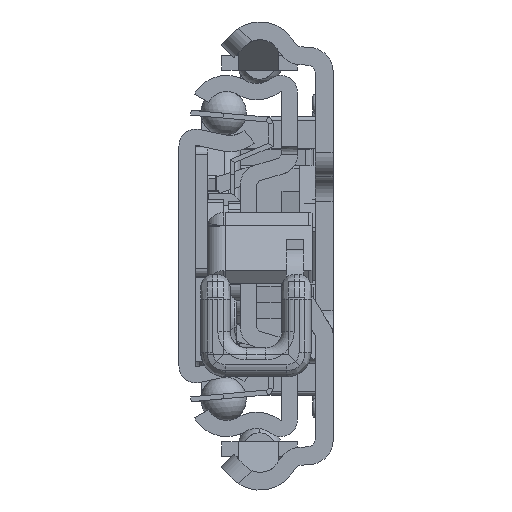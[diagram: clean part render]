
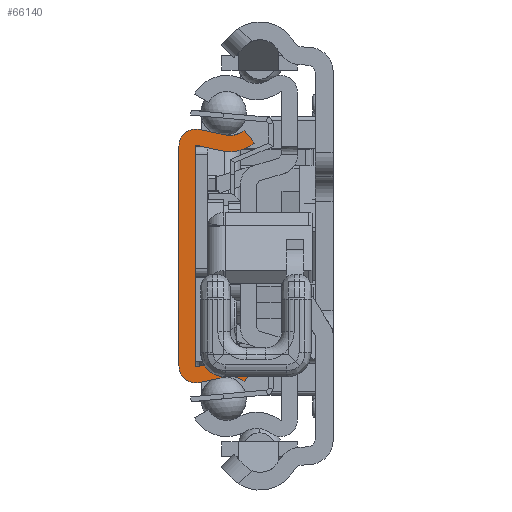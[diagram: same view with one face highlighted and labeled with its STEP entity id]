
A CAD part, left-side view. The second image highlights one B-rep face of the part: STEP entity #66140.
In plain terms, the highlighted planar face has unit normal (-1, 0, 0).
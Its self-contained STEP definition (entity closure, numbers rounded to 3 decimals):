
#60700=CARTESIAN_POINT('',(0.,-6.29,-17.65));
#60701=DIRECTION('',(-1.,0.,0.));
#60702=DIRECTION('',(0.,-0.629,0.778));
#60703=AXIS2_PLACEMENT_3D('',#60700,#60701,#60702);
#60705=DIRECTION('',(0.,0.977,-0.213));
#60706=VECTOR('',#60705,3.218);
#60707=CARTESIAN_POINT('',(0.,-5.692,-14.915));
#60708=LINE('',#60707,#60706);
#60709=CARTESIAN_POINT('',(0.,-2.1,-13.55));
#60710=DIRECTION('',(1.,0.,0.));
#60711=DIRECTION('',(0.,-0.213,-0.977));
#60712=AXIS2_PLACEMENT_3D('',#60709,#60710,#60711);
#60714=DIRECTION('',(0.,0.,1.));
#60715=VECTOR('',#60714,27.1);
#60716=CARTESIAN_POINT('',(0.,0.,-13.55));
#60717=LINE('',#60716,#60715);
#60718=CARTESIAN_POINT('',(0.,-2.1,13.55));
#60719=DIRECTION('',(1.,0.,0.));
#60720=DIRECTION('',(0.,1.,0.));
#60721=AXIS2_PLACEMENT_3D('',#60718,#60719,#60720);
#60723=DIRECTION('',(0.,-0.977,-0.213));
#60724=VECTOR('',#60723,3.218);
#60725=CARTESIAN_POINT('',(0.,-2.548,15.602));
#60726=LINE('',#60725,#60724);
#60727=CARTESIAN_POINT('',(0.,-6.29,17.65));
#60728=DIRECTION('',(-1.,0.,0.));
#60729=DIRECTION('',(0.,0.213,-0.977));
#60730=AXIS2_PLACEMENT_3D('',#60727,#60728,#60729);
#60732=DIRECTION('',(0.,-0.629,-0.778));
#60733=VECTOR('',#60732,2.);
#60734=CARTESIAN_POINT('',(0.,-8.05,15.472));
#60735=LINE('',#60734,#60733);
#60736=CARTESIAN_POINT('',(0.,-6.29,17.65));
#60737=DIRECTION('',(1.,0.,0.));
#60738=DIRECTION('',(0.,-0.629,-0.778));
#60739=AXIS2_PLACEMENT_3D('',#60736,#60737,#60738);
#60741=DIRECTION('',(0.,0.977,0.213));
#60742=VECTOR('',#60741,3.218);
#60743=CARTESIAN_POINT('',(0.,-5.265,12.961));
#60744=LINE('',#60743,#60742);
#60745=CARTESIAN_POINT('',(0.,-2.1,13.55));
#60746=DIRECTION('',(-1.,0.,0.));
#60747=DIRECTION('',(0.,-0.213,0.977));
#60748=AXIS2_PLACEMENT_3D('',#60745,#60746,#60747);
#60750=DIRECTION('',(0.,0.,-1.));
#60751=VECTOR('',#60750,27.1);
#60752=CARTESIAN_POINT('',(0.,-2.,13.55));
#60753=LINE('',#60752,#60751);
#60754=CARTESIAN_POINT('',(0.,-2.1,-13.55));
#60755=DIRECTION('',(-1.,0.,0.));
#60756=DIRECTION('',(0.,1.,0.));
#60757=AXIS2_PLACEMENT_3D('',#60754,#60755,#60756);
#60759=DIRECTION('',(0.,-0.977,0.213));
#60760=VECTOR('',#60759,3.218);
#60761=CARTESIAN_POINT('',(0.,-2.121,-13.648));
#60762=LINE('',#60761,#60760);
#60763=CARTESIAN_POINT('',(0.,-6.29,-17.65));
#60764=DIRECTION('',(1.,0.,0.));
#60765=DIRECTION('',(0.,0.213,0.977));
#60766=AXIS2_PLACEMENT_3D('',#60763,#60764,#60765);
#60768=DIRECTION('',(0.,0.629,-0.778));
#60769=VECTOR('',#60768,2.);
#60770=CARTESIAN_POINT('',(0.,-9.307,-13.917));
#60771=LINE('',#60770,#60769);
#64809=CARTESIAN_POINT('',(0.,-8.05,-15.472));
#64810=CARTESIAN_POINT('',(0.,-5.692,-14.915));
#64811=VERTEX_POINT('',#64809);
#64812=VERTEX_POINT('',#64810);
#64813=CARTESIAN_POINT('',(0.,-2.548,-15.602));
#64814=VERTEX_POINT('',#64813);
#64815=CARTESIAN_POINT('',(0.,0.,-13.55));
#64816=VERTEX_POINT('',#64815);
#64817=CARTESIAN_POINT('',(0.,0.,13.55));
#64818=VERTEX_POINT('',#64817);
#64819=CARTESIAN_POINT('',(0.,-2.548,15.602));
#64820=VERTEX_POINT('',#64819);
#64821=CARTESIAN_POINT('',(0.,-5.692,14.915));
#64822=VERTEX_POINT('',#64821);
#64823=CARTESIAN_POINT('',(0.,-8.05,15.472));
#64824=VERTEX_POINT('',#64823);
#64825=CARTESIAN_POINT('',(0.,-9.307,13.917));
#64826=VERTEX_POINT('',#64825);
#64827=CARTESIAN_POINT('',(0.,-5.265,12.961));
#64828=VERTEX_POINT('',#64827);
#64829=CARTESIAN_POINT('',(0.,-2.121,13.648));
#64830=VERTEX_POINT('',#64829);
#64831=CARTESIAN_POINT('',(0.,-2.,13.55));
#64832=VERTEX_POINT('',#64831);
#64833=CARTESIAN_POINT('',(0.,-2.,-13.55));
#64834=VERTEX_POINT('',#64833);
#64835=CARTESIAN_POINT('',(0.,-2.121,-13.648));
#64836=VERTEX_POINT('',#64835);
#64837=CARTESIAN_POINT('',(0.,-5.265,-12.961));
#64838=VERTEX_POINT('',#64837);
#64839=CARTESIAN_POINT('',(0.,-9.307,-13.917));
#64840=VERTEX_POINT('',#64839);
#66103=CARTESIAN_POINT('',(0.,0.,0.));
#66104=DIRECTION('',(1.,0.,0.));
#66105=DIRECTION('',(0.,-1.,0.));
#66106=AXIS2_PLACEMENT_3D('',#66103,#66104,#66105);
#66107=PLANE('',#66106);
#66109=ORIENTED_EDGE('',*,*,#66108,.T.);
#66111=ORIENTED_EDGE('',*,*,#66110,.T.);
#66113=ORIENTED_EDGE('',*,*,#66112,.T.);
#66115=ORIENTED_EDGE('',*,*,#66114,.T.);
#66117=ORIENTED_EDGE('',*,*,#66116,.T.);
#66118=ORIENTED_EDGE('',*,*,#66093,.T.);
#66119=ORIENTED_EDGE('',*,*,#65847,.T.);
#66121=ORIENTED_EDGE('',*,*,#66120,.T.);
#66123=ORIENTED_EDGE('',*,*,#66122,.T.);
#66125=ORIENTED_EDGE('',*,*,#66124,.T.);
#66127=ORIENTED_EDGE('',*,*,#66126,.T.);
#66129=ORIENTED_EDGE('',*,*,#66128,.T.);
#66131=ORIENTED_EDGE('',*,*,#66130,.T.);
#66133=ORIENTED_EDGE('',*,*,#66132,.T.);
#66135=ORIENTED_EDGE('',*,*,#66134,.T.);
#66137=ORIENTED_EDGE('',*,*,#66136,.T.);
#66138=EDGE_LOOP('',(#66109,#66111,#66113,#66115,#66117,#66118,#66119,#66121,
#66123,#66125,#66127,#66129,#66131,#66133,#66135,#66137));
#66139=FACE_OUTER_BOUND('',#66138,.F.);
#60704=CIRCLE('',#60703,2.8);
#60713=CIRCLE('',#60712,2.1);
#60722=CIRCLE('',#60721,2.1);
#60731=CIRCLE('',#60730,2.8);
#60740=CIRCLE('',#60739,4.8);
#60749=CIRCLE('',#60748,0.1);
#60758=CIRCLE('',#60757,0.1);
#60767=CIRCLE('',#60766,4.8);
#65847=EDGE_CURVE('',#64822,#64824,#60731,.T.);
#66093=EDGE_CURVE('',#64820,#64822,#60726,.T.);
#66108=EDGE_CURVE('',#64811,#64812,#60704,.T.);
#66110=EDGE_CURVE('',#64812,#64814,#60708,.T.);
#66112=EDGE_CURVE('',#64814,#64816,#60713,.T.);
#66114=EDGE_CURVE('',#64816,#64818,#60717,.T.);
#66116=EDGE_CURVE('',#64818,#64820,#60722,.T.);
#66120=EDGE_CURVE('',#64824,#64826,#60735,.T.);
#66122=EDGE_CURVE('',#64826,#64828,#60740,.T.);
#66124=EDGE_CURVE('',#64828,#64830,#60744,.T.);
#66126=EDGE_CURVE('',#64830,#64832,#60749,.T.);
#66128=EDGE_CURVE('',#64832,#64834,#60753,.T.);
#66130=EDGE_CURVE('',#64834,#64836,#60758,.T.);
#66132=EDGE_CURVE('',#64836,#64838,#60762,.T.);
#66134=EDGE_CURVE('',#64838,#64840,#60767,.T.);
#66136=EDGE_CURVE('',#64840,#64811,#60771,.T.);
#66140=ADVANCED_FACE('',(#66139),#66107,.F.);
